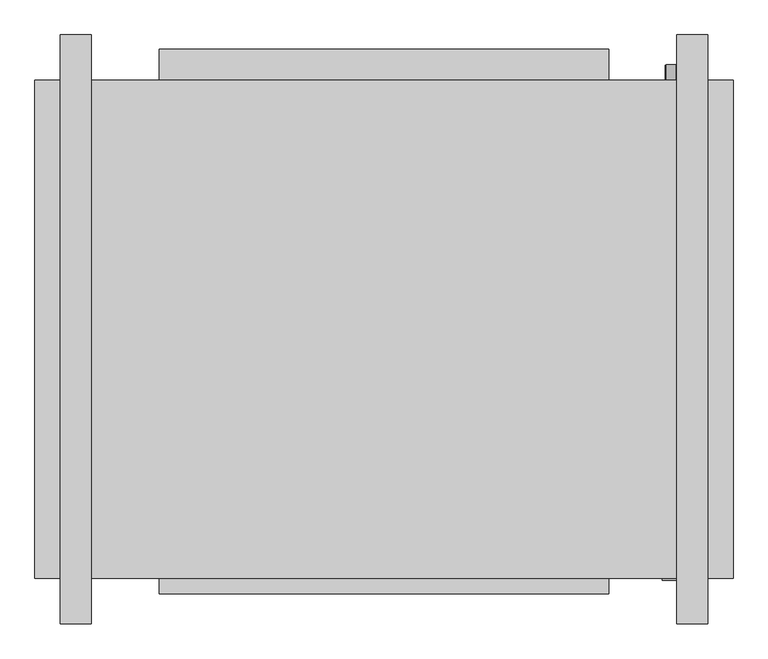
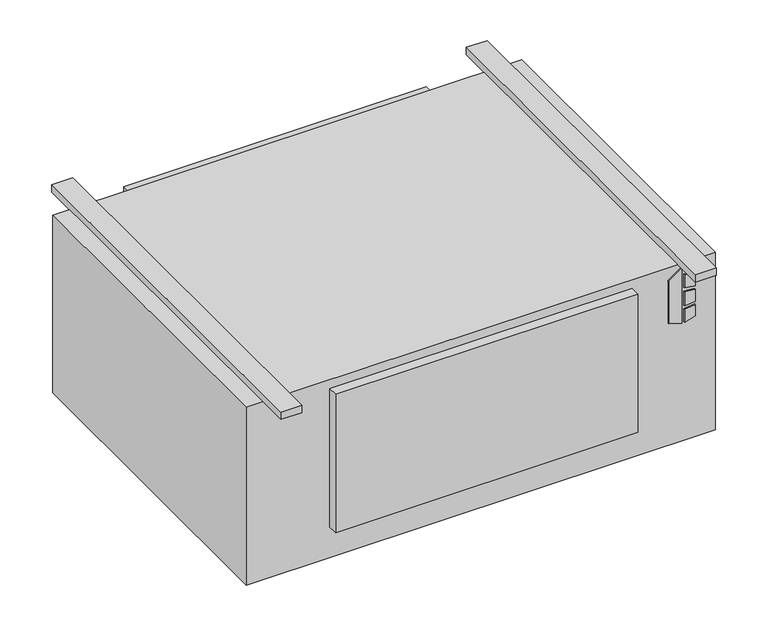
"""IFC4 building model written with IfcOpenShell, lengths in millimetres: proxy geometry, Concealed_High_Capacity_Horizontal_Cabinet_Fan_Coil_Unit_-_HXY_-_IEC_-_2-Pipe_Cool-EHeat_RH_2022 : Size 12 - 277v/60Hz/1Ph - 6 Row 9.0kW."""

from ifc_helpers import new_model, si_unit, point, frame, frame_2d, origin, origin_with_axes, place, context, project, spatial, polyline, circle_curve, trimmed, segment, composite_curve, outline, extrude, source, transform, mapped, element, save


def mechanical_equipment_d97851a5(model_context):
    return source(origin(), model_context, "Body", "SweptSolid", [
        extrude(outline(polyline([(-142.4519297, 608.0868862), (-152.4, 640.2602728), (-10.2290756, 640.2602728), (-33.2510817, 608.0868862), (-142.4519297, 608.0868862)])), frame((0.0, -649.2875, 0.0), z_axis=(0.0, 1.0, 0.0), x_axis=(0.0, 0.0, 1.0)), (0.0, 0.0, 1.0), 3.175),
        extrude(outline(polyline([(-63.4526443, 647.0186058), (-66.6550368, 673.1), (-37.4261958, 673.1), (-29.3617807, 647.0186058), (-63.4526443, 647.0186058)])), frame((0.0, -649.2875, 0.0), z_axis=(0.0, 1.0, 0.0), x_axis=(0.0, 0.0, 1.0)), (0.0, 0.0, 1.0), 3.175),
        extrude(outline(polyline([(-115.3161712, 673.1), (-118.9816721, 647.0186058), (-152.4, 647.0186058), (-143.7657628, 673.1), (-115.3161712, 673.1)])), frame((0.0, -649.2875, 0.0), z_axis=(0.0, 1.0, 0.0), x_axis=(0.0, 0.0, 1.0)), (0.0, 0.0, 1.0), 3.175),
        extrude(outline(polyline([(-76.0010097, 673.1), (-73.7191834, 647.0186058), (-109.6567319, 647.0186058), (-106.9154669, 673.1), (-76.0010097, 673.1)])), frame((0.0, -649.2875, 0.0), z_axis=(0.0, 1.0, 0.0), x_axis=(0.0, 0.0, 1.0)), (0.0, 0.0, 1.0), 3.175),
        extrude(outline(composite_curve([segment(trimmed(circle_curve(frame_2d((-406.4, 622.3)), 9.525), [point((-406.4, 612.775))], [point((-406.4, 631.825))], False, "CARTESIAN"), True, "CONTINUOUS"), segment(trimmed(circle_curve(frame_2d((-406.4, 622.3)), 9.525), [point((-406.4, 631.825))], [point((-406.4, 612.775))], False, "CARTESIAN"), True, "CONTINUOUS")], self_intersect=False)), frame((0.0, 169.8625, 0.0), z_axis=(0.0, 1.0, 0.0), x_axis=(0.0, 0.0, 1.0)), (0.0, 0.0, 1.0), 25.4),
        extrude(outline(composite_curve([segment(trimmed(circle_curve(frame_2d((-330.2, 622.3)), 7.9375), [point((-330.2, 614.3625))], [point((-330.2, 630.2375))], False, "CARTESIAN"), True, "CONTINUOUS"), segment(trimmed(circle_curve(frame_2d((-330.2, 622.3)), 7.9375), [point((-330.2, 630.2375))], [point((-330.2, 614.3625))], False, "CARTESIAN"), True, "CONTINUOUS")], self_intersect=False)), frame((0.0, 169.8625, 0.0), z_axis=(0.0, 1.0, 0.0), x_axis=(0.0, 0.0, 1.0)), (0.0, 0.0, 1.0), 25.4),
        extrude(outline(composite_curve([segment(trimmed(circle_curve(frame_2d((-254.0, 622.3)), 7.9375), [point((-254.0, 614.3625))], [point((-254.0, 630.2375))], False, "CARTESIAN"), True, "CONTINUOUS"), segment(trimmed(circle_curve(frame_2d((-254.0, 622.3)), 7.9375), [point((-254.0, 630.2375))], [point((-254.0, 614.3625))], False, "CARTESIAN"), True, "CONTINUOUS")], self_intersect=False)), frame((0.0, 169.8625, 0.0), z_axis=(0.0, 1.0, 0.0), x_axis=(0.0, 0.0, 1.0)), (0.0, 0.0, 1.0), 25.4),
        extrude(outline(polyline([(723.9, 169.8625), (723.9, -646.1125), (-419.1, -646.1125), (-419.1, 169.8625), (723.9, 169.8625)])), frame((0.0, 0.0, -457.2), z_axis=(0.0, 0.0, 1.0), x_axis=(1.0, 0.0, 0.0)), (0.0, 0.0, 1.0), 457.2),
        extrude(outline(polyline([(-215.9, 220.6625), (520.7, 220.6625), (520.7, 169.8625), (-215.9, 169.8625), (-215.9, 220.6625)])), frame((0.0, 0.0, -377.825), z_axis=(0.0, 0.0, 1.0), x_axis=(1.0, 0.0, 0.0)), (0.0, 0.0, 1.0), 349.25),
        extrude(outline(polyline([(-327.025, 244.475), (-327.025, -720.725), (-377.825, -720.725), (-377.825, 244.475), (-327.025, 244.475)])), origin_with_axes(), (0.0, 0.0, 1.0), 19.05),
        extrude(outline(polyline([(682.625, 244.475), (682.625, -720.725), (631.825, -720.725), (631.825, 244.475), (682.625, 244.475)])), origin_with_axes(), (0.0, 0.0, 1.0), 19.05),
        extrude(outline(polyline([(520.7, -671.5125), (-215.9, -671.5125), (-215.9, -646.1125), (520.7, -646.1125), (520.7, -671.5125)])), frame((0.0, 0.0, -377.825), z_axis=(0.0, 0.0, 1.0), x_axis=(1.0, 0.0, 0.0)), (0.0, 0.0, 1.0), 355.6),
    ])


if __name__ == "__main__":
    model = new_model("IFC4")
    model_context = context("Model", 3, world=origin())
    ifc_project = project(units=[si_unit("LENGTHUNIT", "METRE", prefix="MILLI")], contexts=[model_context])
    site = spatial("IfcSite", under=ifc_project)
    building = spatial("IfcBuilding", under=site)
    placement = place(None, origin())
    mechanical_equipment_shape = mechanical_equipment_d97851a5(model_context)
    element("IfcBuildingElementProxy", 1, Name="Concealed_High_Capacity_Horizontal_Cabinet_Fan_Coil_Unit_-_HXY_-_IEC_-_2-Pipe_Cool-EHeat_RH_2022 : Size 12 - 277v/60Hz/1Ph - 6 Row 9.0kW", ObjectType="Concealed_High_Capacity_Horizontal_Cabinet_Fan_Coil_Unit_-_HXY_-_IEC_-_2-Pipe_Cool-EHeat_RH_2022 : Size 12 - 277v/60Hz/1Ph - 6 Row 9.0kW", at=placement, inside=building, context=model_context, shape_type="MappedRepresentation", body=[
        mapped(mechanical_equipment_shape, transform((0.0, 0.0, 0.0), x_axis=(1.0, 0.0, 0.0), y_axis=(0.0, 1.0, 0.0), z_axis=(0.0, 0.0, 1.0))),
    ])
    save(model, "model.ifc")
